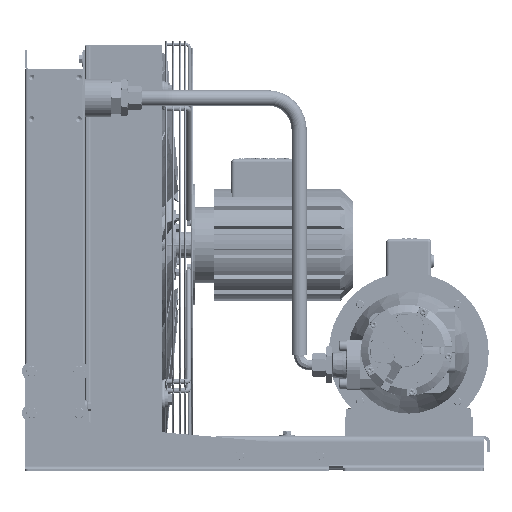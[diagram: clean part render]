
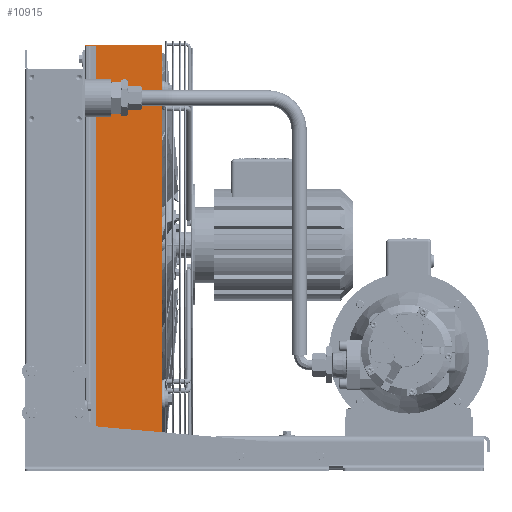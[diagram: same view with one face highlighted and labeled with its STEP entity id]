
A CAD part, left-side view. The second image highlights one B-rep face of the part: STEP entity #10915.
In plain terms, the highlighted planar face has unit normal (-1, 0, 0) as drawn and (0, -1, 0) by its records, which use the part's own axes.
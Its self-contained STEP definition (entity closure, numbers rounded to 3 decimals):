
#10915 = ADVANCED_FACE( '', ( #22154 ), #22155, .F. );
#22154 = FACE_OUTER_BOUND( '', #42745, .T. );
#22155 = PLANE( '', #42746 );
#42745 = EDGE_LOOP( '', ( #72853, #72854, #72855, #72856, #72857, #72858, #72859, #72860 ) );
#42746 = AXIS2_PLACEMENT_3D( '', #72861, #72862, #72863 );
#72853 = ORIENTED_EDGE( '', *, *, #92574, .F. );
#72854 = ORIENTED_EDGE( '', *, *, #88077, .T. );
#72855 = ORIENTED_EDGE( '', *, *, #95764, .T. );
#72856 = ORIENTED_EDGE( '', *, *, #91162, .T. );
#72857 = ORIENTED_EDGE( '', *, *, #96200, .F. );
#72858 = ORIENTED_EDGE( '', *, *, #96201, .T. );
#72859 = ORIENTED_EDGE( '', *, *, #95384, .T. );
#72860 = ORIENTED_EDGE( '', *, *, #88192, .F. );
#72861 = CARTESIAN_POINT( '', ( -312.5, -320., 120. ) );
#72862 = DIRECTION( '', ( 0., 1., 0. ) );
#72863 = DIRECTION( '', ( -1., 0., 0. ) );
#88077 = EDGE_CURVE( '', #101403, #101401, #101404, .T. );
#88192 = EDGE_CURVE( '', #101598, #101593, #101600, .T. );
#91162 = EDGE_CURVE( '', #106583, #106581, #106584, .T. );
#92574 = EDGE_CURVE( '', #101403, #101598, #108774, .T. );
#95384 = EDGE_CURVE( '', #112860, #101593, #112862, .T. );
#95764 = EDGE_CURVE( '', #101401, #106583, #113367, .T. );
#96200 = EDGE_CURVE( '', #113940, #106581, #113941, .T. );
#96201 = EDGE_CURVE( '', #113940, #112860, #113942, .T. );
#101401 = VERTEX_POINT( '', #122559 );
#101403 = VERTEX_POINT( '', #122562 );
#101404 = LINE( '', #122563, #122564 );
#101593 = VERTEX_POINT( '', #123209 );
#101598 = VERTEX_POINT( '', #123216 );
#101600 = LINE( '', #123219, #123220 );
#106581 = VERTEX_POINT( '', #136923 );
#106583 = VERTEX_POINT( '', #136926 );
#106584 = LINE( '', #136927, #136928 );
#108774 = LINE( '', #143009, #143010 );
#112860 = VERTEX_POINT( '', #154101 );
#112862 = LINE( '', #154104, #154105 );
#113367 = LINE( '', #155801, #155802 );
#113940 = VERTEX_POINT( '', #157692 );
#113941 = LINE( '', #157693, #157694 );
#113942 = LINE( '', #157695, #157696 );
#122559 = CARTESIAN_POINT( '', ( 311., -320., 114. ) );
#122562 = CARTESIAN_POINT( '', ( 311., -320., 120. ) );
#122563 = CARTESIAN_POINT( '', ( 311., -320., 120. ) );
#122564 = VECTOR( '', #167046, 1000. );
#123209 = CARTESIAN_POINT( '', ( 312.5, -320., 0. ) );
#123216 = CARTESIAN_POINT( '', ( 312.5, -320., 120. ) );
#123219 = CARTESIAN_POINT( '', ( 312.5, -320., 120. ) );
#123220 = VECTOR( '', #167120, 1000. );
#136923 = CARTESIAN_POINT( '', ( -311., -320., 120. ) );
#136926 = CARTESIAN_POINT( '', ( -311., -320., 114. ) );
#136927 = CARTESIAN_POINT( '', ( -311., -320., 120. ) );
#136928 = VECTOR( '', #169710, 1000. );
#143009 = CARTESIAN_POINT( '', ( -312.5, -320., 120. ) );
#143010 = VECTOR( '', #170846, 1000. );
#154101 = CARTESIAN_POINT( '', ( -312.5, -320., 0. ) );
#154104 = CARTESIAN_POINT( '', ( -312.5, -320., 0. ) );
#154105 = VECTOR( '', #173145, 1000. );
#155801 = CARTESIAN_POINT( '', ( -312.5, -320., 114. ) );
#155802 = VECTOR( '', #173409, 1000. );
#157692 = CARTESIAN_POINT( '', ( -312.5, -320., 120. ) );
#157693 = CARTESIAN_POINT( '', ( -312.5, -320., 120. ) );
#157694 = VECTOR( '', #173713, 1000. );
#157695 = CARTESIAN_POINT( '', ( -312.5, -320., 120. ) );
#157696 = VECTOR( '', #173714, 1000. );
#167046 = DIRECTION( '', ( 0., 0., -1. ) );
#167120 = DIRECTION( '', ( 0., 0., -1. ) );
#169710 = DIRECTION( '', ( 0., 0., 1. ) );
#170846 = DIRECTION( '', ( 1., 0., 0. ) );
#173145 = DIRECTION( '', ( 1., 0., 0. ) );
#173409 = DIRECTION( '', ( -1., 0., 0. ) );
#173713 = DIRECTION( '', ( 1., 0., 0. ) );
#173714 = DIRECTION( '', ( 0., 0., -1. ) );
